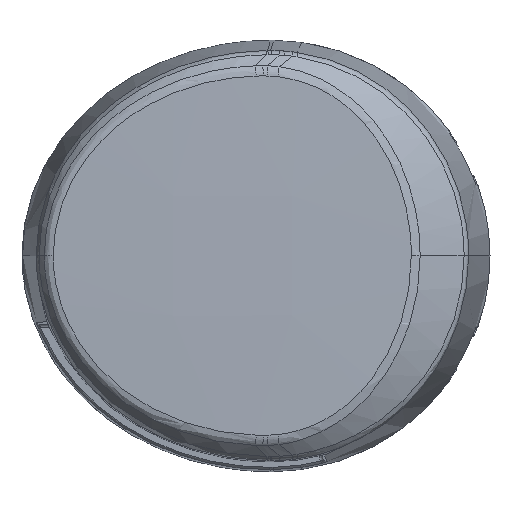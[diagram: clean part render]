
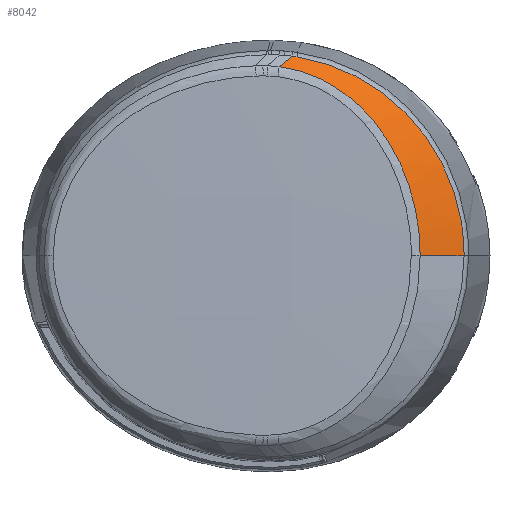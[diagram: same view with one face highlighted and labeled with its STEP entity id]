
A CAD part, top view. The second image highlights one B-rep face of the part: STEP entity #8042.
In plain terms, the highlighted free-form (B-spline) face has degree [5, 1] with [9, 2] control points.
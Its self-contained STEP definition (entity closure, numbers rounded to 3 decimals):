
#7039=CARTESIAN_POINT('Vertex',(-3.842,25.835,29.743)) ;
#7141=CARTESIAN_POINT('Vertex',(15.454,0.,28.695)) ;
#7145=CARTESIAN_POINT('Control Point',(-3.842,25.835,29.743)) ;
#7146=CARTESIAN_POINT('Control Point',(-3.822,25.833,29.742)) ;
#7147=CARTESIAN_POINT('Control Point',(-3.802,25.83,29.741)) ;
#7148=CARTESIAN_POINT('Control Point',(-3.782,25.827,29.74)) ;
#7149=CARTESIAN_POINT('Control Point',(-3.453,25.784,29.726)) ;
#7150=CARTESIAN_POINT('Control Point',(-3.126,25.734,29.712)) ;
#7151=CARTESIAN_POINT('Control Point',(-2.82,25.68,29.7)) ;
#7152=CARTESIAN_POINT('Control Point',(-1.263,25.369,29.634)) ;
#7153=CARTESIAN_POINT('Control Point',(0.244,24.892,29.569)) ;
#7154=CARTESIAN_POINT('Control Point',(1.417,24.407,29.516)) ;
#7155=CARTESIAN_POINT('Control Point',(3.747,23.216,29.405)) ;
#7156=CARTESIAN_POINT('Control Point',(5.863,21.669,29.293)) ;
#7157=CARTESIAN_POINT('Control Point',(6.892,20.786,29.235)) ;
#7158=CARTESIAN_POINT('Control Point',(8.888,18.8,29.12)) ;
#7159=CARTESIAN_POINT('Control Point',(10.583,16.533,29.016)) ;
#7160=CARTESIAN_POINT('Control Point',(11.377,15.295,28.966)) ;
#7161=CARTESIAN_POINT('Control Point',(13.306,11.777,28.841)) ;
#7162=CARTESIAN_POINT('Control Point',(14.589,7.937,28.754)) ;
#7163=CARTESIAN_POINT('Control Point',(15.137,5.428,28.717)) ;
#7164=CARTESIAN_POINT('Control Point',(15.433,2.814,28.696)) ;
#7165=CARTESIAN_POINT('Control Point',(15.453,0.198,28.695)) ;
#7166=CARTESIAN_POINT('Control Point',(15.454,0.132,28.695)) ;
#7167=CARTESIAN_POINT('Control Point',(15.454,0.066,28.695)) ;
#7168=CARTESIAN_POINT('Control Point',(15.454,0.,28.695)) ;
#7931=CARTESIAN_POINT('Vertex',(-2.019,27.27,28.071)) ;
#7943=CARTESIAN_POINT('Control Point',(-2.019,27.27,28.071)) ;
#7944=CARTESIAN_POINT('Control Point',(-2.384,26.983,28.406)) ;
#7945=CARTESIAN_POINT('Control Point',(-2.748,26.696,28.74)) ;
#7946=CARTESIAN_POINT('Control Point',(-3.113,26.409,29.074)) ;
#7947=CARTESIAN_POINT('Control Point',(-3.477,26.122,29.408)) ;
#7948=CARTESIAN_POINT('Control Point',(-3.842,25.835,29.743)) ;
#7959=CARTESIAN_POINT('Control Point',(-1.408,27.751,27.511)) ;
#7960=CARTESIAN_POINT('Control Point',(-4.498,25.319,30.344)) ;
#7961=CARTESIAN_POINT('Control Point',(2.692,27.18,27.224)) ;
#7962=CARTESIAN_POINT('Control Point',(-0.873,24.993,30.108)) ;
#7963=CARTESIAN_POINT('Control Point',(6.669,25.798,26.805)) ;
#7964=CARTESIAN_POINT('Control Point',(2.668,23.719,29.878)) ;
#7965=CARTESIAN_POINT('Control Point',(10.31,23.645,26.283)) ;
#7966=CARTESIAN_POINT('Control Point',(5.776,21.561,29.676)) ;
#7967=CARTESIAN_POINT('Control Point',(16.317,18.329,25.256)) ;
#7968=CARTESIAN_POINT('Control Point',(10.672,16.423,29.359)) ;
#7969=CARTESIAN_POINT('Control Point',(20.13,11.269,24.436)) ;
#7970=CARTESIAN_POINT('Control Point',(13.549,9.95,29.172)) ;
#7971=CARTESIAN_POINT('Control Point',(21.377,7.607,24.147)) ;
#7972=CARTESIAN_POINT('Control Point',(14.456,6.686,29.114)) ;
#7973=CARTESIAN_POINT('Control Point',(22.,3.803,24.002)) ;
#7974=CARTESIAN_POINT('Control Point',(14.91,3.343,29.084)) ;
#7975=CARTESIAN_POINT('Control Point',(22.,0.,24.002)) ;
#7976=CARTESIAN_POINT('Control Point',(14.91,0.,29.084)) ;
#7978=CARTESIAN_POINT('Control Point',(-1.357,27.174,28.025)) ;
#7979=CARTESIAN_POINT('Control Point',(-1.163,27.143,28.011)) ;
#7980=CARTESIAN_POINT('Control Point',(-0.965,27.11,27.996)) ;
#7981=CARTESIAN_POINT('Control Point',(-0.772,27.075,27.981)) ;
#7982=CARTESIAN_POINT('Control Point',(-0.383,27.002,27.95)) ;
#7983=CARTESIAN_POINT('Control Point',(0.003,26.922,27.919)) ;
#7984=CARTESIAN_POINT('Control Point',(0.196,26.88,27.902)) ;
#7985=CARTESIAN_POINT('Control Point',(1.823,26.508,27.762)) ;
#7986=CARTESIAN_POINT('Control Point',(3.414,26.008,27.598)) ;
#7987=CARTESIAN_POINT('Control Point',(4.784,25.472,27.438)) ;
#7988=CARTESIAN_POINT('Control Point',(7.433,24.222,27.094)) ;
#7989=CARTESIAN_POINT('Control Point',(9.892,22.627,26.716)) ;
#7990=CARTESIAN_POINT('Control Point',(11.062,21.751,26.523)) ;
#7991=CARTESIAN_POINT('Control Point',(14.397,18.887,25.94)) ;
#7992=CARTESIAN_POINT('Control Point',(17.12,15.389,25.383)) ;
#7993=CARTESIAN_POINT('Control Point',(18.613,12.821,25.052)) ;
#7994=CARTESIAN_POINT('Control Point',(20.03,9.405,24.726)) ;
#7995=CARTESIAN_POINT('Control Point',(20.865,5.843,24.529)) ;
#7996=CARTESIAN_POINT('Control Point',(21.009,5.121,24.494)) ;
#7997=CARTESIAN_POINT('Control Point',(21.22,3.85,24.444)) ;
#7998=CARTESIAN_POINT('Control Point',(21.357,2.57,24.411)) ;
#7999=CARTESIAN_POINT('Control Point',(21.402,2.02,24.4)) ;
#8000=CARTESIAN_POINT('Control Point',(21.439,1.377,24.391)) ;
#8001=CARTESIAN_POINT('Control Point',(21.457,0.734,24.387)) ;
#8002=CARTESIAN_POINT('Control Point',(21.46,0.643,24.386)) ;
#8003=CARTESIAN_POINT('Control Point',(21.463,0.46,24.385)) ;
#8004=CARTESIAN_POINT('Control Point',(21.466,0.277,24.385)) ;
#8005=CARTESIAN_POINT('Control Point',(21.466,0.182,24.385)) ;
#8006=CARTESIAN_POINT('Control Point',(21.467,0.091,24.384)) ;
#8007=CARTESIAN_POINT('Control Point',(21.467,0.,24.384)) ;
#8008=CARTESIAN_POINT('Vertex',(21.467,0.,24.384)) ;
#8010=CARTESIAN_POINT('Vertex',(-1.357,27.174,28.025)) ;
#8014=CARTESIAN_POINT('Control Point',(-2.019,27.27,28.071)) ;
#8015=CARTESIAN_POINT('Control Point',(-1.988,27.266,28.069)) ;
#8016=CARTESIAN_POINT('Control Point',(-1.958,27.262,28.067)) ;
#8017=CARTESIAN_POINT('Control Point',(-1.927,27.258,28.065)) ;
#8018=CARTESIAN_POINT('Control Point',(-1.82,27.243,28.058)) ;
#8019=CARTESIAN_POINT('Control Point',(-1.713,27.228,28.05)) ;
#8020=CARTESIAN_POINT('Control Point',(-1.637,27.217,28.045)) ;
#8021=CARTESIAN_POINT('Control Point',(-1.539,27.202,28.038)) ;
#8022=CARTESIAN_POINT('Control Point',(-1.441,27.187,28.031)) ;
#8023=CARTESIAN_POINT('Control Point',(-1.4,27.181,28.028)) ;
#8024=CARTESIAN_POINT('Control Point',(-1.378,27.177,28.026)) ;
#8025=CARTESIAN_POINT('Control Point',(-1.357,27.174,28.025)) ;
#8028=CARTESIAN_POINT('Control Point',(21.467,0.,24.384)) ;
#8029=CARTESIAN_POINT('Control Point',(20.264,0.,25.246)) ;
#8030=CARTESIAN_POINT('Control Point',(19.062,0.,26.109)) ;
#8031=CARTESIAN_POINT('Control Point',(17.859,0.,26.971)) ;
#8032=CARTESIAN_POINT('Control Point',(16.656,0.,27.833)) ;
#8033=CARTESIAN_POINT('Control Point',(15.454,0.,28.695)) ;
#8036=ORIENTED_EDGE('',*,*,#8012,.T.) ;
#8037=ORIENTED_EDGE('',*,*,#8026,.T.) ;
#8038=ORIENTED_EDGE('',*,*,#7949,.T.) ;
#8039=ORIENTED_EDGE('',*,*,#7169,.F.) ;
#8040=ORIENTED_EDGE('',*,*,#8034,.F.) ;
#8042=ADVANCED_FACE('PORT COVER BASIC_NAVILED_DECKMOUNT',(#8041),#7958,.F.) ;
#7144=B_SPLINE_CURVE_WITH_KNOTS('',5,(#7145,#7146,#7147,#7148,#7149,#7150,#7151,#7152,#7153,#7154,#7155,#7156,#7157,#7158,#7159,#7160,#7161,#7162,#7163,#7164,#7165,#7166,#7167,#7168),.UNSPECIFIED.,.F.,.U.,(6,3,3,3,3,3,3,6),(63.877,64.051,66.731,77.793,89.575,102.229,124.07,124.636),.UNSPECIFIED.) ;
#7942=B_SPLINE_CURVE_WITH_KNOTS('',5,(#7943,#7944,#7945,#7946,#7947,#7948),.UNSPECIFIED.,.F.,.U.,(6,6),(0.694,2.766),.UNSPECIFIED.) ;
#7977=B_SPLINE_CURVE_WITH_KNOTS('',5,(#7978,#7979,#7980,#7981,#7982,#7983,#7984,#7985,#7986,#7987,#7988,#7989,#7990,#7991,#7992,#7993,#7994,#7995,#7996,#7997,#7998,#7999,#8000,#8001,#8002,#8003,#8004,#8005,#8006,#8007),.UNSPECIFIED.,.F.,.U.,(6,3,3,3,3,3,3,3,3,6),(31.861,33.598,35.334,48.269,61.096,86.838,93.331,98.208,99.02,99.824),.UNSPECIFIED.) ;
#8013=B_SPLINE_CURVE_WITH_KNOTS('',5,(#8014,#8015,#8016,#8017,#8018,#8019,#8020,#8021,#8022,#8023,#8024,#8025),.UNSPECIFIED.,.F.,.U.,(6,3,3,6),(15.719,15.99,16.667,16.859),.UNSPECIFIED.) ;
#8027=B_SPLINE_CURVE_WITH_KNOTS('',5,(#8028,#8029,#8030,#8031,#8032,#8033),.UNSPECIFIED.,.F.,.U.,(6,6),(0.264,3.242),.UNSPECIFIED.) ;
#7958=B_SPLINE_SURFACE_WITH_KNOTS('',5,1,((#7959,#7960),(#7961,#7962),(#7963,#7964),(#7965,#7966),(#7967,#7968),(#7969,#7970),(#7971,#7972),(#7973,#7974),(#7975,#7976)),.UNSPECIFIED.,.F.,.F.,.U.,(6,3,6),(2,2),(0.,19.532,37.436),(0.,3.511),.UNSPECIFIED.) ;
#7169=EDGE_CURVE('',#7142,#7040,#7144,.F.) ;
#7949=EDGE_CURVE('',#7932,#7040,#7942,.T.) ;
#8012=EDGE_CURVE('',#8009,#8011,#7977,.F.) ;
#8026=EDGE_CURVE('',#8011,#7932,#8013,.F.) ;
#8034=EDGE_CURVE('',#8009,#7142,#8027,.T.) ;
#8035=EDGE_LOOP('',(#8036,#8037,#8038,#8039,#8040)) ;
#8041=FACE_OUTER_BOUND('',#8035,.T.) ;
#7040=VERTEX_POINT('',#7039) ;
#7142=VERTEX_POINT('',#7141) ;
#7932=VERTEX_POINT('',#7931) ;
#8009=VERTEX_POINT('',#8008) ;
#8011=VERTEX_POINT('',#8010) ;
